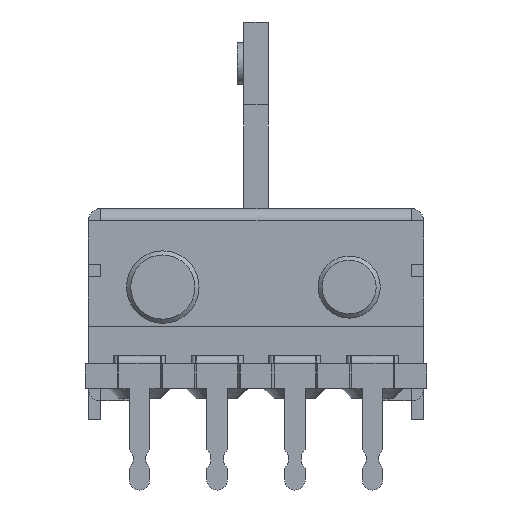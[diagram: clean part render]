
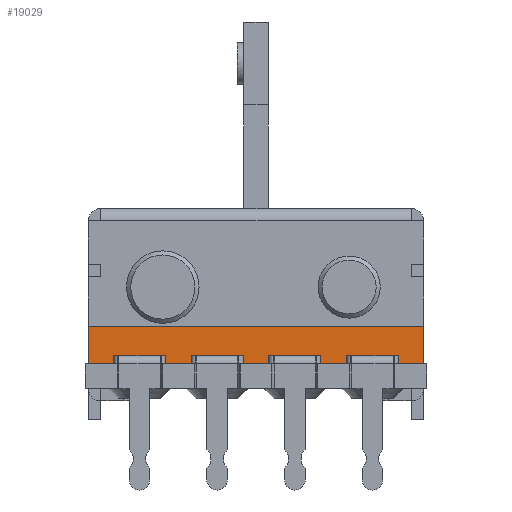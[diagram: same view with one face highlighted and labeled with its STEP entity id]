
A CAD part, left-side view. The second image highlights one B-rep face of the part: STEP entity #19029.
In plain terms, the highlighted planar face has unit normal (-1, 0, 0).
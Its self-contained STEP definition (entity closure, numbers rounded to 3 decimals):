
#182 = PLANE('',#183);
#183 = AXIS2_PLACEMENT_3D('',#184,#185,#186);
#184 = CARTESIAN_POINT('',(0.,8.1,-8.066));
#185 = DIRECTION('',(0.,1.,0.));
#186 = DIRECTION('',(0.,0.,1.));
#283 = PLANE('',#284);
#284 = AXIS2_PLACEMENT_3D('',#285,#286,#287);
#285 = CARTESIAN_POINT('',(0.,-8.1,-8.066));
#286 = DIRECTION('',(0.,-1.,0.));
#287 = DIRECTION('',(0.,0.,-1.));
#5053 = VERTEX_POINT('',#5054);
#5054 = CARTESIAN_POINT('',(-31.,-8.1,-5.7));
#5067 = PLANE('',#5068);
#5068 = AXIS2_PLACEMENT_3D('',#5069,#5070,#5071);
#5069 = CARTESIAN_POINT('',(-40.,10.,-5.7));
#5070 = DIRECTION('',(0.,0.,1.));
#5071 = DIRECTION('',(1.,0.,0.));
#5078 = EDGE_CURVE('',#5079,#5053,#5081,.T.);
#5079 = VERTEX_POINT('',#5080);
#5080 = CARTESIAN_POINT('',(-31.,-8.1,-7.5));
#5081 = SURFACE_CURVE('',#5082,(#5086,#5092),.PCURVE_S1.);
#5082 = LINE('',#5083,#5084);
#5083 = CARTESIAN_POINT('',(-31.,-8.1,-6.883));
#5084 = VECTOR('',#5085,1.);
#5085 = DIRECTION('',(0.,0.,1.));
#5086 = PCURVE('',#283,#5087);
#5087 = DEFINITIONAL_REPRESENTATION('',(#5088),#5091);
#5088 = B_SPLINE_CURVE_WITH_KNOTS('',1,(#5089,#5090),.UNSPECIFIED.,.F.,
  .F.,(2,2),(-0.617,1.183),.PIECEWISE_BEZIER_KNOTS.);
#5089 = CARTESIAN_POINT('',(-0.566,-31.));
#5090 = CARTESIAN_POINT('',(-2.366,-31.));
#5091 = ( GEOMETRIC_REPRESENTATION_CONTEXT(2) 
PARAMETRIC_REPRESENTATION_CONTEXT() REPRESENTATION_CONTEXT('2D SPACE',''
  ) );
#5092 = PCURVE('',#5093,#5098);
#5093 = PLANE('',#5094);
#5094 = AXIS2_PLACEMENT_3D('',#5095,#5096,#5097);
#5095 = CARTESIAN_POINT('',(-31.,10.,-5.7));
#5096 = DIRECTION('',(1.,0.,0.));
#5097 = DIRECTION('',(0.,0.,-1.));
#5098 = DEFINITIONAL_REPRESENTATION('',(#5099),#5102);
#5099 = B_SPLINE_CURVE_WITH_KNOTS('',1,(#5100,#5101),.UNSPECIFIED.,.F.,
  .F.,(2,2),(-0.617,1.183),.PIECEWISE_BEZIER_KNOTS.);
#5100 = CARTESIAN_POINT('',(1.8,-18.1));
#5101 = CARTESIAN_POINT('',(0.,-18.1));
#5102 = ( GEOMETRIC_REPRESENTATION_CONTEXT(2) 
PARAMETRIC_REPRESENTATION_CONTEXT() REPRESENTATION_CONTEXT('2D SPACE',''
  ) );
#5119 = PLANE('',#5120);
#5120 = AXIS2_PLACEMENT_3D('',#5121,#5122,#5123);
#5121 = CARTESIAN_POINT('',(-36.5,-8.25,-7.5));
#5122 = DIRECTION('',(0.,0.,1.));
#5123 = DIRECTION('',(1.,0.,0.));
#7421 = VERTEX_POINT('',#7422);
#7422 = CARTESIAN_POINT('',(-31.,8.1,-7.5));
#7442 = EDGE_CURVE('',#7443,#7421,#7445,.T.);
#7443 = VERTEX_POINT('',#7444);
#7444 = CARTESIAN_POINT('',(-31.,8.1,-5.7));
#7445 = SURFACE_CURVE('',#7446,(#7450,#7456),.PCURVE_S1.);
#7446 = LINE('',#7447,#7448);
#7447 = CARTESIAN_POINT('',(-31.,8.1,-6.883));
#7448 = VECTOR('',#7449,1.);
#7449 = DIRECTION('',(0.,0.,-1.));
#7450 = PCURVE('',#182,#7451);
#7451 = DEFINITIONAL_REPRESENTATION('',(#7452),#7455);
#7452 = B_SPLINE_CURVE_WITH_KNOTS('',1,(#7453,#7454),.UNSPECIFIED.,.F.,
  .F.,(2,2),(-1.183,0.617),.PIECEWISE_BEZIER_KNOTS.);
#7453 = CARTESIAN_POINT('',(2.366,-31.));
#7454 = CARTESIAN_POINT('',(0.566,-31.));
#7455 = ( GEOMETRIC_REPRESENTATION_CONTEXT(2) 
PARAMETRIC_REPRESENTATION_CONTEXT() REPRESENTATION_CONTEXT('2D SPACE',''
  ) );
#7456 = PCURVE('',#5093,#7457);
#7457 = DEFINITIONAL_REPRESENTATION('',(#7458),#7461);
#7458 = B_SPLINE_CURVE_WITH_KNOTS('',1,(#7459,#7460),.UNSPECIFIED.,.F.,
  .F.,(2,2),(-1.183,0.617),.PIECEWISE_BEZIER_KNOTS.);
#7459 = CARTESIAN_POINT('',(0.,-1.9));
#7460 = CARTESIAN_POINT('',(1.8,-1.9));
#7461 = ( GEOMETRIC_REPRESENTATION_CONTEXT(2) 
PARAMETRIC_REPRESENTATION_CONTEXT() REPRESENTATION_CONTEXT('2D SPACE',''
  ) );
#17120 = EDGE_CURVE('',#17121,#5079,#17123,.T.);
#17121 = VERTEX_POINT('',#17122);
#17122 = CARTESIAN_POINT('',(-31.,-7.5,-7.5));
#17123 = SURFACE_CURVE('',#17124,(#17128,#17135),.PCURVE_S1.);
#17124 = LINE('',#17125,#17126);
#17125 = CARTESIAN_POINT('',(-31.,10.,-7.5));
#17126 = VECTOR('',#17127,1.);
#17127 = DIRECTION('',(0.,-1.,0.));
#17128 = PCURVE('',#5119,#17129);
#17129 = DEFINITIONAL_REPRESENTATION('',(#17130),#17134);
#17130 = LINE('',#17131,#17132);
#17131 = CARTESIAN_POINT('',(5.5,18.25));
#17132 = VECTOR('',#17133,1.);
#17133 = DIRECTION('',(0.,-1.));
#17134 = ( GEOMETRIC_REPRESENTATION_CONTEXT(2) 
PARAMETRIC_REPRESENTATION_CONTEXT() REPRESENTATION_CONTEXT('2D SPACE',''
  ) );
#17135 = PCURVE('',#5093,#17136);
#17136 = DEFINITIONAL_REPRESENTATION('',(#17137),#17141);
#17137 = LINE('',#17138,#17139);
#17138 = CARTESIAN_POINT('',(1.8,0.));
#17139 = VECTOR('',#17140,1.);
#17140 = DIRECTION('',(0.,-1.));
#17141 = ( GEOMETRIC_REPRESENTATION_CONTEXT(2) 
PARAMETRIC_REPRESENTATION_CONTEXT() REPRESENTATION_CONTEXT('2D SPACE',''
  ) );
#17143 = EDGE_CURVE('',#17144,#17121,#17146,.T.);
#17144 = VERTEX_POINT('',#17145);
#17145 = CARTESIAN_POINT('',(-31.,7.5,-7.5));
#17146 = SURFACE_CURVE('',#17147,(#17151,#17158),.PCURVE_S1.);
#17147 = LINE('',#17148,#17149);
#17148 = CARTESIAN_POINT('',(-31.,10.,-7.5));
#17149 = VECTOR('',#17150,1.);
#17150 = DIRECTION('',(0.,-1.,0.));
#17151 = PCURVE('',#5119,#17152);
#17152 = DEFINITIONAL_REPRESENTATION('',(#17153),#17157);
#17153 = LINE('',#17154,#17155);
#17154 = CARTESIAN_POINT('',(5.5,18.25));
#17155 = VECTOR('',#17156,1.);
#17156 = DIRECTION('',(0.,-1.));
#17157 = ( GEOMETRIC_REPRESENTATION_CONTEXT(2) 
PARAMETRIC_REPRESENTATION_CONTEXT() REPRESENTATION_CONTEXT('2D SPACE',''
  ) );
#17158 = PCURVE('',#5093,#17159);
#17159 = DEFINITIONAL_REPRESENTATION('',(#17160),#17164);
#17160 = LINE('',#17161,#17162);
#17161 = CARTESIAN_POINT('',(1.8,0.));
#17162 = VECTOR('',#17163,1.);
#17163 = DIRECTION('',(0.,-1.));
#17164 = ( GEOMETRIC_REPRESENTATION_CONTEXT(2) 
PARAMETRIC_REPRESENTATION_CONTEXT() REPRESENTATION_CONTEXT('2D SPACE',''
  ) );
#17166 = EDGE_CURVE('',#7421,#17144,#17167,.T.);
#17167 = SURFACE_CURVE('',#17168,(#17172,#17179),.PCURVE_S1.);
#17168 = LINE('',#17169,#17170);
#17169 = CARTESIAN_POINT('',(-31.,10.,-7.5));
#17170 = VECTOR('',#17171,1.);
#17171 = DIRECTION('',(0.,-1.,0.));
#17172 = PCURVE('',#5119,#17173);
#17173 = DEFINITIONAL_REPRESENTATION('',(#17174),#17178);
#17174 = LINE('',#17175,#17176);
#17175 = CARTESIAN_POINT('',(5.5,18.25));
#17176 = VECTOR('',#17177,1.);
#17177 = DIRECTION('',(0.,-1.));
#17178 = ( GEOMETRIC_REPRESENTATION_CONTEXT(2) 
PARAMETRIC_REPRESENTATION_CONTEXT() REPRESENTATION_CONTEXT('2D SPACE',''
  ) );
#17179 = PCURVE('',#5093,#17180);
#17180 = DEFINITIONAL_REPRESENTATION('',(#17181),#17185);
#17181 = LINE('',#17182,#17183);
#17182 = CARTESIAN_POINT('',(1.8,0.));
#17183 = VECTOR('',#17184,1.);
#17184 = DIRECTION('',(0.,-1.));
#17185 = ( GEOMETRIC_REPRESENTATION_CONTEXT(2) 
PARAMETRIC_REPRESENTATION_CONTEXT() REPRESENTATION_CONTEXT('2D SPACE',''
  ) );
#19029 = ADVANCED_FACE('',(#19030),#5093,.F.);
#19030 = FACE_BOUND('',#19031,.F.);
#19031 = EDGE_LOOP('',(#19032,#19033,#19054,#19055,#19056,#19057));
#19032 = ORIENTED_EDGE('',*,*,#7442,.F.);
#19033 = ORIENTED_EDGE('',*,*,#19034,.T.);
#19034 = EDGE_CURVE('',#7443,#5053,#19035,.T.);
#19035 = SURFACE_CURVE('',#19036,(#19040,#19047),.PCURVE_S1.);
#19036 = LINE('',#19037,#19038);
#19037 = CARTESIAN_POINT('',(-31.,10.,-5.7));
#19038 = VECTOR('',#19039,1.);
#19039 = DIRECTION('',(0.,-1.,0.));
#19040 = PCURVE('',#5093,#19041);
#19041 = DEFINITIONAL_REPRESENTATION('',(#19042),#19046);
#19042 = LINE('',#19043,#19044);
#19043 = CARTESIAN_POINT('',(0.,0.));
#19044 = VECTOR('',#19045,1.);
#19045 = DIRECTION('',(0.,-1.));
#19046 = ( GEOMETRIC_REPRESENTATION_CONTEXT(2) 
PARAMETRIC_REPRESENTATION_CONTEXT() REPRESENTATION_CONTEXT('2D SPACE',''
  ) );
#19047 = PCURVE('',#5067,#19048);
#19048 = DEFINITIONAL_REPRESENTATION('',(#19049),#19053);
#19049 = LINE('',#19050,#19051);
#19050 = CARTESIAN_POINT('',(9.,0.));
#19051 = VECTOR('',#19052,1.);
#19052 = DIRECTION('',(0.,-1.));
#19053 = ( GEOMETRIC_REPRESENTATION_CONTEXT(2) 
PARAMETRIC_REPRESENTATION_CONTEXT() REPRESENTATION_CONTEXT('2D SPACE',''
  ) );
#19054 = ORIENTED_EDGE('',*,*,#5078,.F.);
#19055 = ORIENTED_EDGE('',*,*,#17120,.F.);
#19056 = ORIENTED_EDGE('',*,*,#17143,.F.);
#19057 = ORIENTED_EDGE('',*,*,#17166,.F.);
